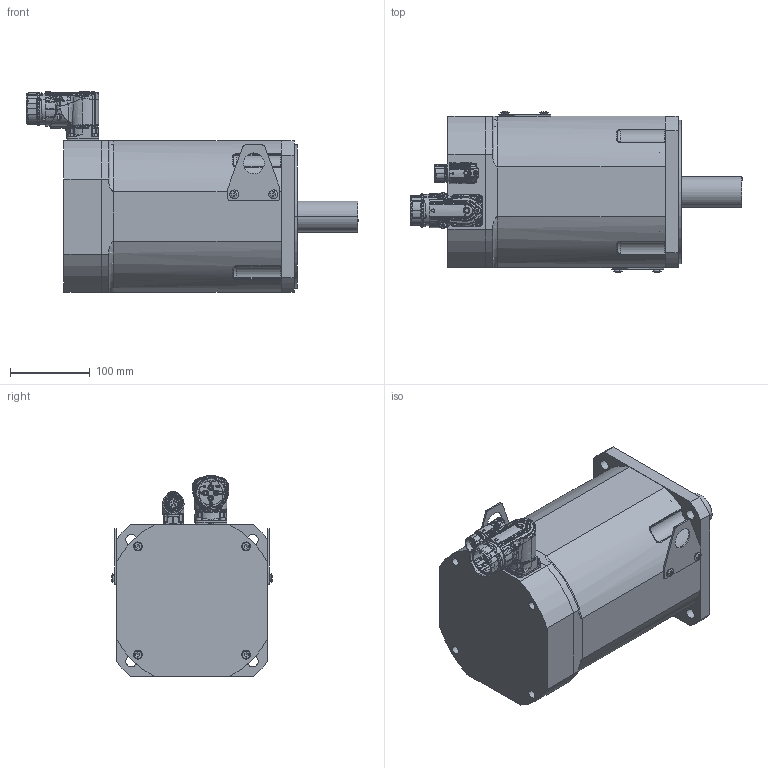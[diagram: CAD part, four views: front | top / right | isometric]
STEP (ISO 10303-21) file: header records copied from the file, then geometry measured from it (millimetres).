
FILE_DESCRIPTION(('CATIA V5 STEP Exchange'),'2;1');
FILE_NAME('C:\Documents and Settings\max\Documenti\sangallimotori\3d step\tg6\motore_DSM5_62_Freno.stp','2010-12-12T20:21:15+00:00',('none'),('none'),'CATIA Version 5 Release 10 (IN-8)','CATIA V5 STEP AP203',' none');
FILE_SCHEMA(('CONFIG_CONTROL_DESIGN'));
Assembly tree (37 placements, depth 0):
Bounding box: 416 x 202.03 x 251.55 mm (x, y, z)
Volume: 9152695.9 mm3; surface area: 533852.7 mm2
Topology: 33 solids, 37 shells, 4500 faces, 15006 edges, 10581 vertices
Faces by surface type: cylinder 1375, bspline 1317, plane 856, torus 420, cone 373, sphere 151, revolution 8
Entity records: 263515 total; most frequent: CARTESIAN_POINT 168359, ORIENTED_EDGE 26558, EDGE_CURVE 13388, VERTEX_POINT 9665, DIRECTION 9602, B_SPLINE_CURVE_WITH_KNOTS 8062, AXIS2_PLACEMENT_3D 4792, EDGE_LOOP 4074
